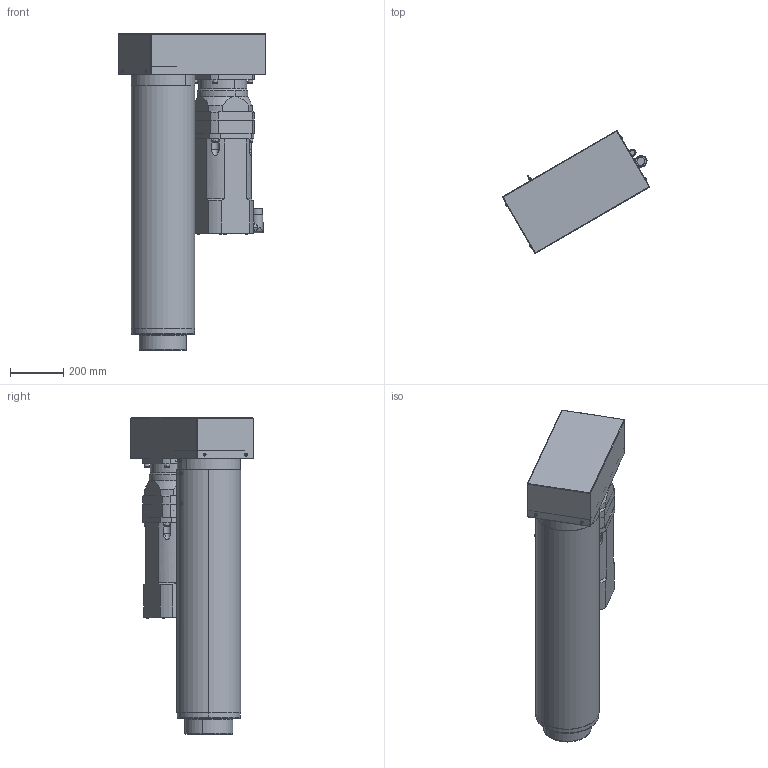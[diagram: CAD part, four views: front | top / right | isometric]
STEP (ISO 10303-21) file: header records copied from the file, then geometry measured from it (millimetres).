
FILE_DESCRIPTION (( 'STEP AP214' ), '1' );
FILE_NAME ('RLWPK200D-055-010HG0.STEP', '2023-04-06T06:36:55', ( '' ), ( '' ), 'SwSTEP 2.0', 'SolidWorks 2021', '' );
FILE_SCHEMA (( 'AUTOMOTIVE_DESIGN' ));
Length unit declared in the file: millimetre
Products named in the file (1): RLWPK200D-055-010HG0
Bounding box: 555.1 x 462.49 x 1192 mm (x, y, z)
Surface area: 4113050.4 mm2 (no closed solid volume)
Topology: 0 solids, 39 shells, 1389 faces, 3300 edges, 2006 vertices
Faces by surface type: cylinder 570, plane 527, cone 224, torus 58, bspline 10
Entity records: 56665 total; most frequent: CARTESIAN_POINT 8765, DIRECTION 7149, ORIENTED_EDGE 6304, EDGE_CURVE 3158, AXIS2_PLACEMENT_3D 2769, VERTEX_POINT 2006, EDGE_LOOP 1670, LINE 1611
